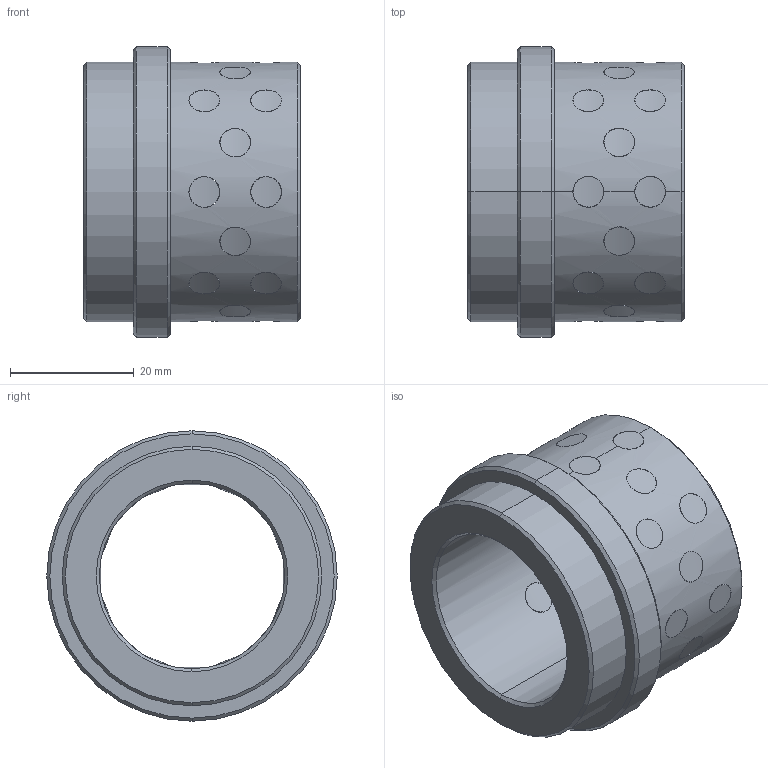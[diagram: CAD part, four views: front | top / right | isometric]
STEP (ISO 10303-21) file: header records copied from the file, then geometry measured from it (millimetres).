
FILE_DESCRIPTION((''),'2;1');
FILE_NAME('G31230027','2017-12-30T',('MANU'),(''),'PRO/ENGINEER BY PARAMETRIC TECHNOLOGY CORPORATION, 2012130','PRO/ENGINEER BY PARAMETRIC TECHNOLOGY CORPORATION, 2012130','');
FILE_SCHEMA(('CONFIG_CONTROL_DESIGN'));
Length unit declared in the file: millimetre
Products named in the file (1): G31230027
Bounding box: 35 x 47 x 47 mm (x, y, z)
Volume: 25697.7 mm3; surface area: 14352.4 mm2
Topology: 25 solids, 25 shells, 168 faces, 360 edges, 236 vertices
Faces by surface type: cylinder 152, cone 12, plane 4
Entity records: 7710 total; most frequent: CARTESIAN_POINT 4344, ORIENTED_EDGE 720, DIRECTION 516, EDGE_CURVE 360, VERTEX_POINT 236, EDGE_LOOP 212, B_SPLINE_CURVE_WITH_KNOTS 208, AXIS2_PLACEMENT_3D 196
